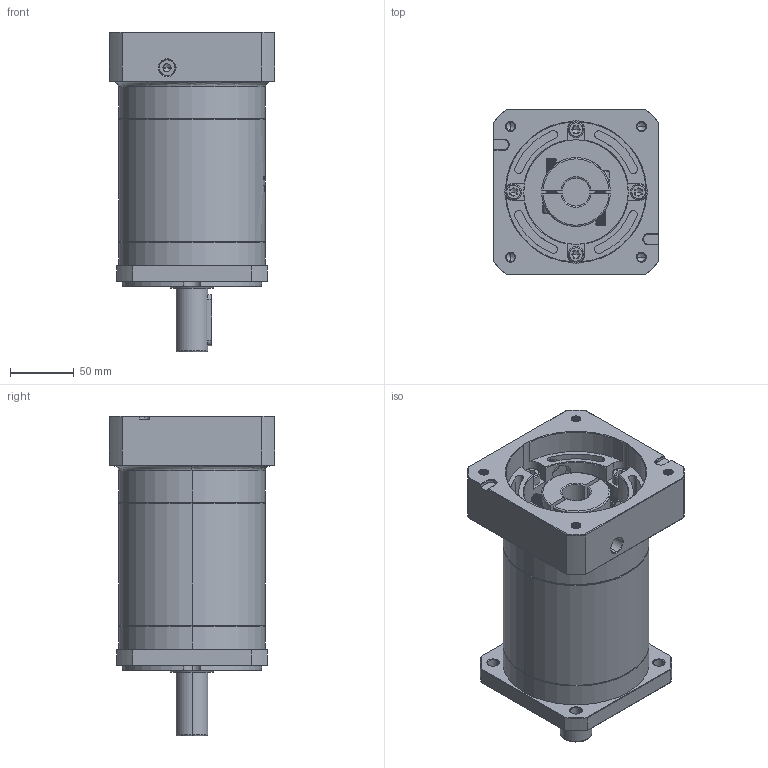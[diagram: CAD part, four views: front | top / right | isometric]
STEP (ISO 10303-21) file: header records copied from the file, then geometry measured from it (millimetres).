
FILE_DESCRIPTION (( 'STEP AP214' ), '1' );
FILE_NAME ('ZF120A-D25-L3-22-110-145-M8.step', '2023-03-07T09:31:07', ( '' ), ( '' ), 'SwSTEP 2.0', 'SolidWorks 2016', '' );
FILE_SCHEMA (( 'AUTOMOTIVE_DESIGN' ));
Length unit declared in the file: millimetre
Products named in the file (1): ZF120A-D25-L3-22-110-145-M8
Bounding box: 130 x 130 x 251 mm (x, y, z)
Volume: 2047064.9 mm3; surface area: 202344 mm2
Topology: 6 solids, 6 shells, 2001 faces, 5277 edges, 3368 vertices
Faces by surface type: plane 883, cylinder 449, cone 328, bspline 323, torus 18
Entity records: 110317 total; most frequent: CARTESIAN_POINT 42640, ORIENTED_EDGE 10494, DIRECTION 8168, EDGE_CURVE 5247, VERTEX_POINT 3368, VECTOR 2824, LINE 2824, AXIS2_PLACEMENT_3D 2672
